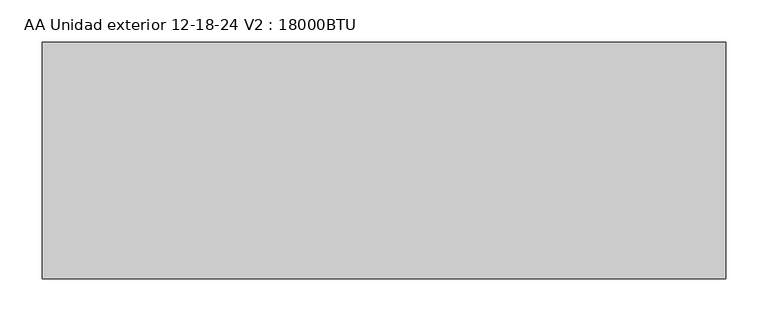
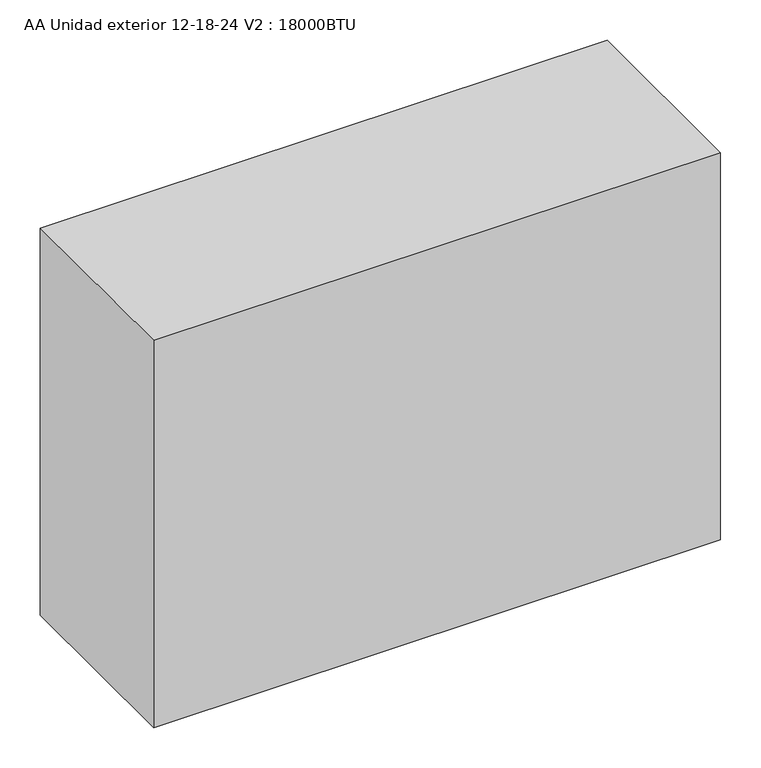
"""IFC4 building model written with IfcOpenShell, lengths in millimetres: proxy geometry, AA Unidad exterior 12-18-24 V2 : 18000BTU."""

from ifc_helpers import new_model, si_unit, origin, origin_with_axes, place, context, project, spatial, polyline, outline, extrude, source, transform, mapped, element, save


def aa_unidad_exterior_12_18_24_v2_18000btu_77353a8c(model_context):
    return source(origin(), model_context, "Body", "SweptSolid", [
        extrude(outline(polyline([(405.0, 140.0), (405.0, -140.0), (-405.0, -140.0), (-405.0, 140.0), (405.0, 140.0)])), origin_with_axes(), (0.0, 0.0, 1.0), 585.0),
    ])


if __name__ == "__main__":
    model = new_model("IFC4")
    model_context = context("Model", 3, world=origin())
    ifc_project = project(units=[si_unit("LENGTHUNIT", "METRE", prefix="MILLI")], contexts=[model_context])
    site = spatial("IfcSite", under=ifc_project)
    building = spatial("IfcBuilding", under=site)
    placement = place(None, origin())
    aa_unidad_exterior_12_18_24_v2_18000btu_shape = aa_unidad_exterior_12_18_24_v2_18000btu_77353a8c(model_context)
    element("IfcBuildingElementProxy", 1, Name="AA Unidad exterior 12-18-24 V2 : 18000BTU", ObjectType="AA Unidad exterior 12-18-24 V2 : 18000BTU", at=placement, inside=building, context=model_context, shape_type="MappedRepresentation", body=[
        mapped(aa_unidad_exterior_12_18_24_v2_18000btu_shape, transform((0.0, 0.0, 0.0), x_axis=(1.0, 0.0, 0.0), y_axis=(0.0, 1.0, 0.0), z_axis=(0.0, 0.0, 1.0))),
    ])
    save(model, "model.ifc")
